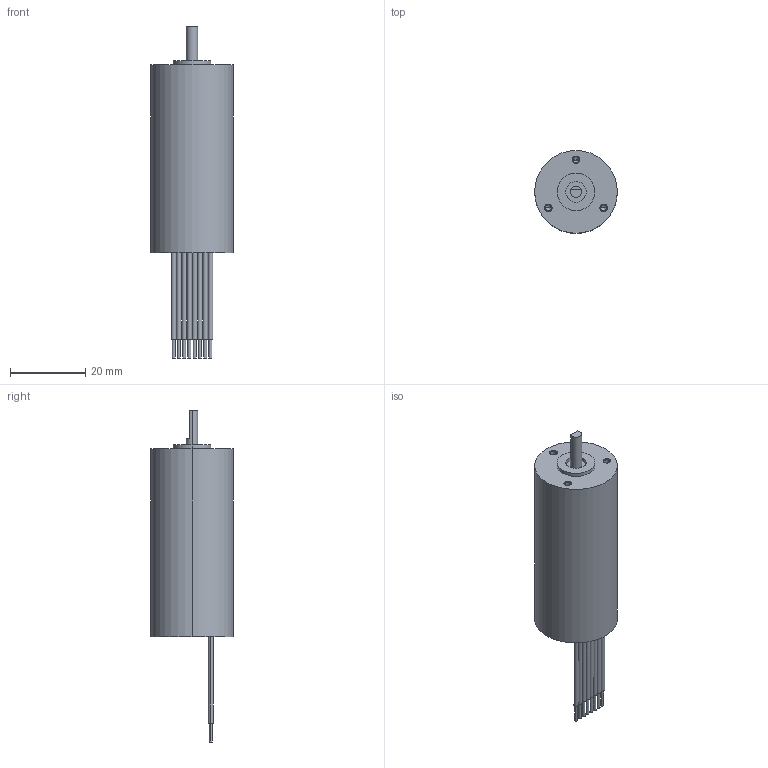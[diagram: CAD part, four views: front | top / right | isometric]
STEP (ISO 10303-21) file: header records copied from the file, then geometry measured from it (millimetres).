
FILE_DESCRIPTION (( 'STEP AP214' ), '1' );
FILE_NAME ('BLU09 Series.STEP', '2009-09-14T20:33:30', ( 'Tim Raines' ), ( 'Anaheim Automation' ), 'SwSTEP 2.0', 'SolidWorks 2009', '' );
FILE_SCHEMA (( 'AUTOMOTIVE_DESIGN' ));
Length unit declared in the file: millimetre
Products named in the file (1): BLU09 Series
Bounding box: 22 x 22 x 88.3 mm (x, y, z)
Volume: 19329.5 mm3; surface area: 5379.8 mm2
Topology: 1 solids, 1 shells, 87 faces, 183 edges, 115 vertices
Faces by surface type: cylinder 49, plane 26, cone 12
Entity records: 3316 total; most frequent: DIRECTION 459, CARTESIAN_POINT 380, ORIENTED_EDGE 354, AXIS2_PLACEMENT_3D 194, EDGE_CURVE 177, VERTEX_POINT 115, EDGE_LOOP 110, CIRCLE 106
